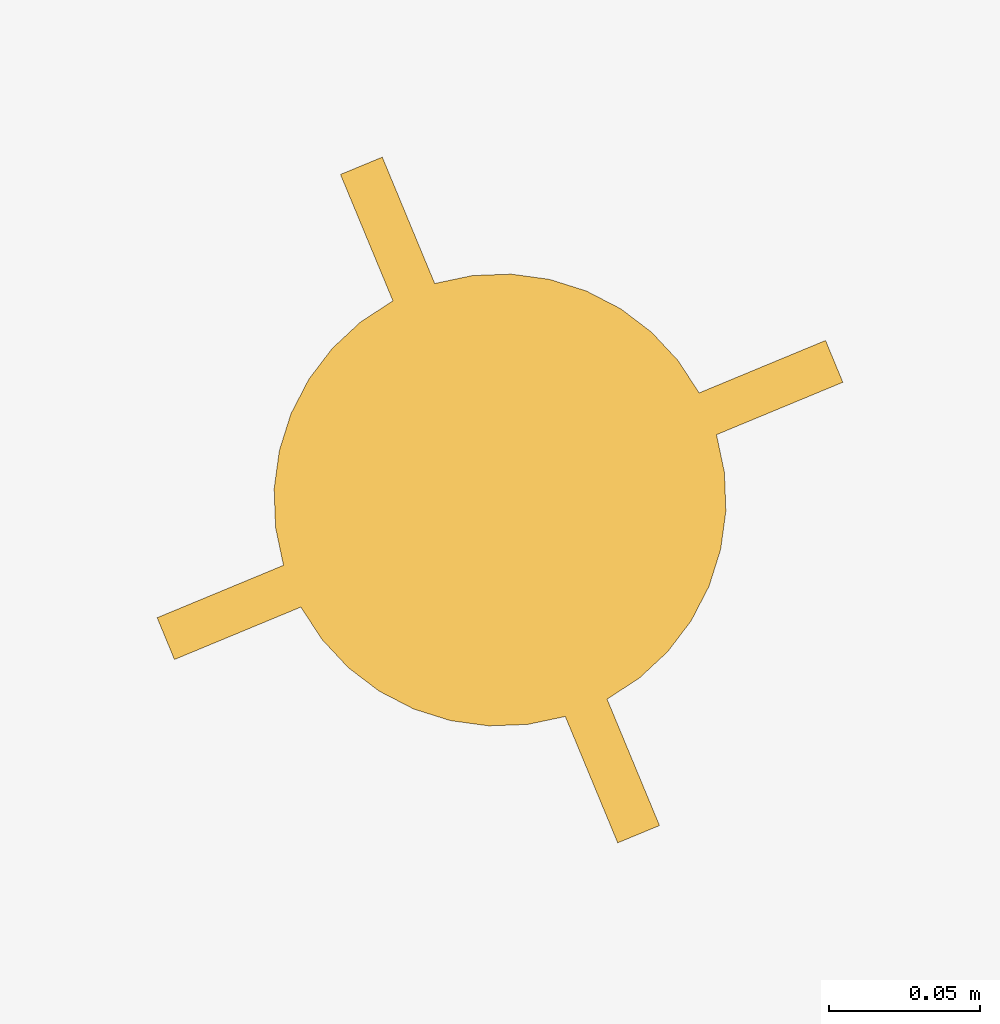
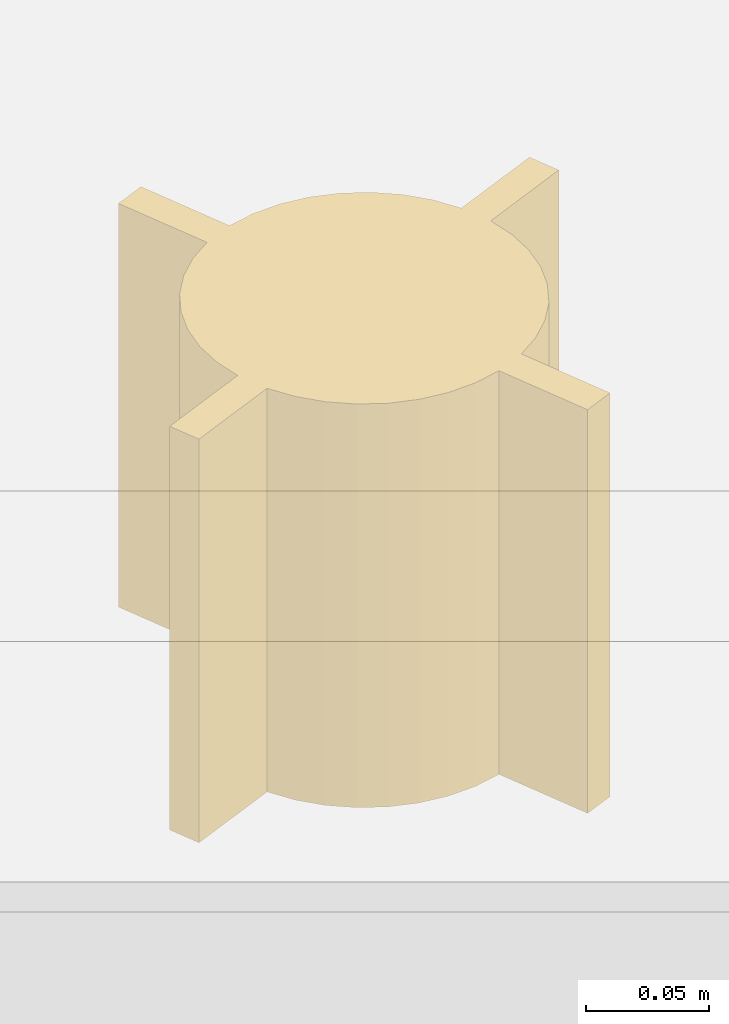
# One storey, part 56 of 91: 1 covering.
"""IFC2X3 building model written with IfcOpenShell, lengths in metres."""

from ifc_helpers import new_model, entity, si_unit, converted_unit, derived_unit, money_unit, direction, frame, origin_with_axes, place, context, subcontext, project, spatial, faceted_brep, source, transform, mapped, material, type_object, element, save


model = new_model("IFC2X3")

# Units and contexts
model_context = context("Model", 3, precision=1e-05, world=origin_with_axes(), true_north=direction((0.0, 1.0)))
body_context = subcontext(model_context, "Body", "Model", "MODEL_VIEW")
ifc_project = project(units=[si_unit("LENGTHUNIT", "METRE"), si_unit("AREAUNIT", "SQUARE_METRE"), si_unit("VOLUMEUNIT", "CUBIC_METRE"), converted_unit("PLANEANGLEUNIT", "DEGREE", entity("IfcPlaneAngleMeasure", 0.0174532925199), si_unit("PLANEANGLEUNIT", "RADIAN"), dimensions=[0, 0, 0, 0, 0, 0, 0]), si_unit("SOLIDANGLEUNIT", "STERADIAN"), money_unit("EUR"), converted_unit("TIMEUNIT", "Year", entity("IfcTimeMeasure", 31556926.0), si_unit("TIMEUNIT", "SECOND"), dimensions=[0, 0, 1, 0, 0, 0, 0]), si_unit("MASSUNIT", "GRAM", prefix="KILO"), si_unit("THERMODYNAMICTEMPERATUREUNIT", "DEGREE_CELSIUS"), si_unit("LUMINOUSINTENSITYUNIT", "LUMEN"), si_unit("ENERGYUNIT", "JOULE", prefix="MEGA"), derived_unit("THERMALCONDUCTANCEUNIT", [(si_unit("POWERUNIT", "WATT"), 1), (si_unit("LENGTHUNIT", "METRE"), -1), (si_unit("THERMODYNAMICTEMPERATUREUNIT", "KELVIN"), -1)]), derived_unit("SPECIFICHEATCAPACITYUNIT", [(si_unit("ENERGYUNIT", "JOULE"), 1), (si_unit("MASSUNIT", "GRAM", prefix="KILO"), -1), (si_unit("THERMODYNAMICTEMPERATUREUNIT", "KELVIN"), -1)]), derived_unit("MASSDENSITYUNIT", [(si_unit("MASSUNIT", "GRAM", prefix="KILO"), 1), (si_unit("VOLUMEUNIT", "CUBIC_METRE"), -1)])], contexts=[model_context])

# Site, building, storey
site_placement = place(None, origin_with_axes())
site = spatial("IfcSite", under=ifc_project, at=site_placement, Name="Site", CompositionType="ELEMENT")
building_placement = place(site_placement, origin_with_axes())
building = spatial("IfcBuilding", under=site, at=building_placement, Name="Bâtiment", CompositionType="ELEMENT")
storey_placement = place(building_placement, frame((0.0, 0.0, 5.44), z_axis=(0.0, 0.0, 1.0), x_axis=(1.0, 0.0, 0.0)))
storey = spatial("IfcBuildingStorey", under=building, at=storey_placement, Name="R+2", CompositionType="ELEMENT", Elevation=5.44)

# Covering
ifc_material = material(Name="Volume - Etude")
covering_type = type_object("IfcCoveringType", Name="Evacuation EP terrasse", PredefinedType="FLOORING")
shared_shape = source(origin_with_axes(), body_context, "Body", "Brep", [
    faceted_brep([(0.0522327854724, 0.0878658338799, 0.2), (0.0522327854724, 0.0878658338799, 0.0), (0.058702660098, 0.0767838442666, 0.0), (0.058702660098, 0.0767838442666, 0.2), (0.0477467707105, 0.0998885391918, 0.2), (0.0477467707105, 0.0998885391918, 0.0), (0.045375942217, 0.1125, 0.0), (0.0, 0.1125, 0.0), (0.0, 0.1275, 0.0), (0.045375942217, 0.1275, 0.0), (0.0477467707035, 0.140111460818, 0.0), (0.0522327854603, 0.15213416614, 0.0), (0.0587026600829, 0.163216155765, 0.0), (0.066966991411, 0.173033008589, 0.0), (0.0767838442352, 0.181297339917, 0.0), (0.0878658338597, 0.18776721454, 0.0), (0.0998885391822, 0.192253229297, 0.0), (0.1125, 0.194624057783, 0.0), (0.1125, 0.24, 0.0), (0.1275, 0.24, 0.0), (0.1275, 0.194624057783, 0.0), (0.140111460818, 0.192253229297, 0.0), (0.15213416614, 0.18776721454, 0.0), (0.163216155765, 0.181297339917, 0.0), (0.173033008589, 0.173033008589, 0.0), (0.181297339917, 0.163216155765, 0.0), (0.18776721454, 0.15213416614, 0.0), (0.192253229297, 0.140111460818, 0.0), (0.194624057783, 0.1275, 0.0), (0.24, 0.1275, 0.0), (0.24, 0.1125, 0.0), (0.194624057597, 0.1125, 0.0), (0.192253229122, 0.099888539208, 0.0), (0.187767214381, 0.0878658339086, 0.0), (0.181297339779, 0.0767838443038, 0.0), (0.173033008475, 0.0669669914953, 0.0), (0.163216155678, 0.058702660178, 0.0), (0.152134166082, 0.0522327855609, 0.0), (0.140111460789, 0.0477467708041, 0.0), (0.1275, 0.045375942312, 0.0), (0.1275, 0.0, 0.0), (0.1125, 0.0, 0.0), (0.1125, 0.0453759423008, 0.0), (0.0998885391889, 0.0477467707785, 0.0), (0.0878658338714, 0.0522327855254, 0.0), (0.07678384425, 0.0587026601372, 0.0), (0.066966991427, 0.066966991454, 0.0), (0.066966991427, 0.066966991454, 0.2), (0.07678384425, 0.0587026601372, 0.2), (0.0878658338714, 0.0522327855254, 0.2), (0.0998885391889, 0.0477467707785, 0.2), (0.1125, 0.0453759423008, 0.2), (0.1125, 0.0, 0.2), (0.1275, 0.0, 0.2), (0.1275, 0.045375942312, 0.2), (0.140111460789, 0.0477467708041, 0.2), (0.152134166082, 0.0522327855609, 0.2), (0.163216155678, 0.058702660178, 0.2), (0.173033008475, 0.0669669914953, 0.2), (0.181297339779, 0.0767838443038, 0.2), (0.187767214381, 0.0878658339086, 0.2), (0.192253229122, 0.099888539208, 0.2), (0.194624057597, 0.1125, 0.2), (0.24, 0.1125, 0.2), (0.24, 0.1275, 0.2), (0.194624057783, 0.1275, 0.2), (0.192253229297, 0.140111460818, 0.2), (0.18776721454, 0.15213416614, 0.2), (0.181297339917, 0.163216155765, 0.2), (0.173033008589, 0.173033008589, 0.2), (0.163216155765, 0.181297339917, 0.2), (0.15213416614, 0.18776721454, 0.2), (0.140111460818, 0.192253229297, 0.2), (0.1275, 0.194624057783, 0.2), (0.1275, 0.24, 0.2), (0.1125, 0.24, 0.2), (0.1125, 0.194624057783, 0.2), (0.0998885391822, 0.192253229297, 0.2), (0.0878658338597, 0.18776721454, 0.2), (0.0767838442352, 0.181297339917, 0.2), (0.066966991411, 0.173033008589, 0.2), (0.0587026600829, 0.163216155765, 0.2), (0.0522327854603, 0.15213416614, 0.2), (0.0477467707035, 0.140111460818, 0.2), (0.045375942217, 0.1275, 0.2), (0.0, 0.1275, 0.2), (0.0, 0.1125, 0.2), (0.045375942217, 0.1125, 0.2)], [[[0, 1, 2, 3]], [[4, 5, 1, 0]], [[1, 5, 6, 7, 8, 9, 10, 11, 12, 13, 14, 15, 16, 17, 18, 19, 20, 21, 22, 23, 24, 25, 26, 27, 28, 29, 30, 31, 32, 33, 34, 35, 36, 37, 38, 39, 40, 41, 42, 43, 44, 45, 46, 2]], [[46, 47, 3, 2]], [[4, 0, 3, 47, 48, 49, 50, 51, 52, 53, 54, 55, 56, 57, 58, 59, 60, 61, 62, 63, 64, 65, 66, 67, 68, 69, 70, 71, 72, 73, 74, 75, 76, 77, 78, 79, 80, 81, 82, 83, 84, 85, 86, 87]], [[5, 4, 87, 6]], [[87, 86, 7, 6]], [[86, 85, 8, 7]], [[9, 8, 85, 84]], [[9, 84, 83, 10]], [[82, 11, 10, 83]], [[11, 82, 81, 12]], [[12, 81, 80, 13]], [[13, 80, 79, 14]], [[14, 79, 78, 15]], [[15, 78, 77, 16]], [[16, 77, 76, 17]], [[76, 75, 18, 17]], [[75, 74, 19, 18]], [[73, 20, 19, 74]], [[72, 21, 20, 73]], [[21, 72, 71, 22]], [[22, 71, 70, 23]], [[23, 70, 69, 24]], [[24, 69, 68, 25]], [[67, 26, 25, 68]], [[66, 27, 26, 67]], [[66, 65, 28, 27]], [[29, 28, 65, 64]], [[64, 63, 30, 29]], [[62, 31, 30, 63]], [[61, 32, 31, 62]], [[60, 33, 32, 61]], [[59, 34, 33, 60]], [[58, 35, 34, 59]], [[57, 36, 35, 58]], [[56, 37, 36, 57]], [[55, 38, 37, 56]], [[39, 38, 55, 54]], [[53, 40, 39, 54]], [[52, 41, 40, 53]], [[51, 42, 41, 52]], [[42, 51, 50, 43]], [[49, 44, 43, 50]], [[44, 49, 48, 45]], [[47, 46, 45, 48]]]),
])
covering_placement = place(storey_placement, frame((-2.62873986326, 23.7786026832, 0.0), z_axis=(0.0, 0.0, 1.0), x_axis=(0.383112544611, -0.923701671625, 0.0)))
element("IfcCovering", 1, at=covering_placement, inside=storey, type_object=covering_type, material=ifc_material, Name="MOB-004", PredefinedType="FLOORING", context=body_context, shape_type="MappedRepresentation", body=[
    mapped(shared_shape, transform((0.0, 0.0, 0.0))),
])

save(model, "model.ifc")
